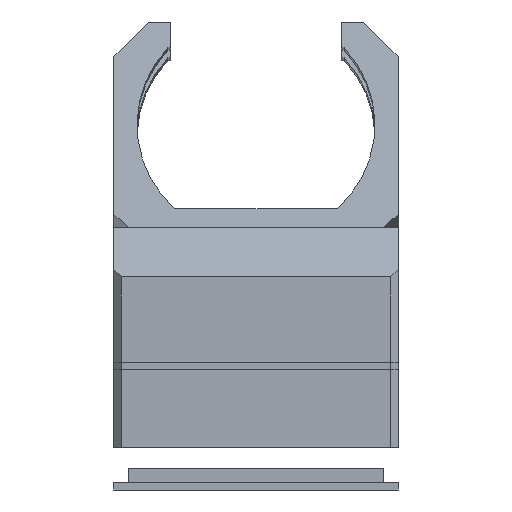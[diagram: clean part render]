
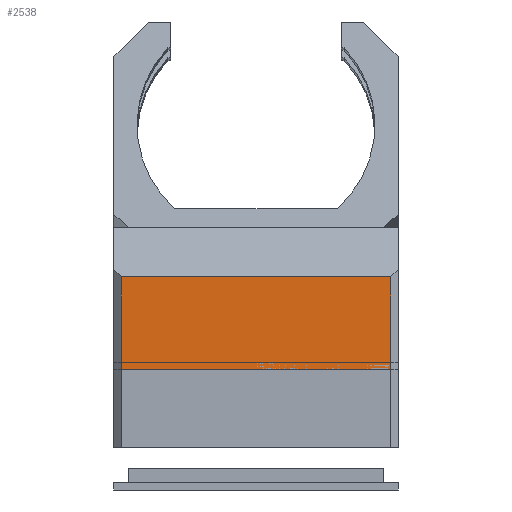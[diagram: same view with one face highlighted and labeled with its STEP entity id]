
A CAD part, left-side view. The second image highlights one B-rep face of the part: STEP entity #2538.
In plain terms, the highlighted planar face has unit normal (-1, 0, 0).
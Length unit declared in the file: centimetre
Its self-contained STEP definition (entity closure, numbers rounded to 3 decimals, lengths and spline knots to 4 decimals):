
#191=FACE_OUTER_BOUND($,#324,.T.);
#324=EDGE_LOOP($,(#2049,#2050,#2051,#2052));
#601=LINE($,#3858,#916);
#606=LINE($,#3869,#921);
#610=LINE($,#3877,#925);
#617=LINE($,#3889,#932);
#916=VECTOR($,#3144,1.3);
#921=VECTOR($,#3153,3.8);
#925=VECTOR($,#3159,1.3);
#932=VECTOR($,#3170,3.8);
#1176=VERTEX_POINT($,#3851);
#1179=VERTEX_POINT($,#3856);
#1183=VERTEX_POINT($,#3868);
#1186=VERTEX_POINT($,#3876);
#1481=EDGE_CURVE($,#1179,#1176,#601,.T.);
#1486=EDGE_CURVE($,#1176,#1183,#606,.T.);
#1490=EDGE_CURVE($,#1183,#1186,#610,.T.);
#1497=EDGE_CURVE($,#1186,#1179,#617,.T.);
#2049=ORIENTED_EDGE($,*,*,#1481,.F.);
#2050=ORIENTED_EDGE($,*,*,#1497,.F.);
#2051=ORIENTED_EDGE($,*,*,#1490,.F.);
#2052=ORIENTED_EDGE($,*,*,#1486,.F.);
#2407=PLANE($,#2711);
#2538=ADVANCED_FACE($,(#191),#2407,.F.);
#2711=AXIS2_PLACEMENT_3D($,#3892,#3174,#3175);
#3144=DIRECTION($,(0.,0.,1.));
#3153=DIRECTION($,(0.,-1.,0.));
#3159=DIRECTION($,(0.,0.,-1.));
#3170=DIRECTION($,(0.,1.,0.));
#3174=DIRECTION('center_axis',(1.,0.,0.));
#3175=DIRECTION('ref_axis',(0.,0.,-1.));
#3851=CARTESIAN_POINT('',(-20.95,16.9,2.7));
#3856=CARTESIAN_POINT('',(-20.95,16.9,1.4));
#3858=CARTESIAN_POINT($,(-20.95,16.9,2.4));
#3868=CARTESIAN_POINT('',(-20.95,13.1,2.7));
#3869=CARTESIAN_POINT($,(-20.95,15.,2.7));
#3876=CARTESIAN_POINT('',(-20.95,13.1,1.4));
#3877=CARTESIAN_POINT($,(-20.95,13.1,2.4));
#3889=CARTESIAN_POINT($,(-20.95,15.,1.4));
#3892=CARTESIAN_POINT('Origin',(-20.95,15.,2.4));
